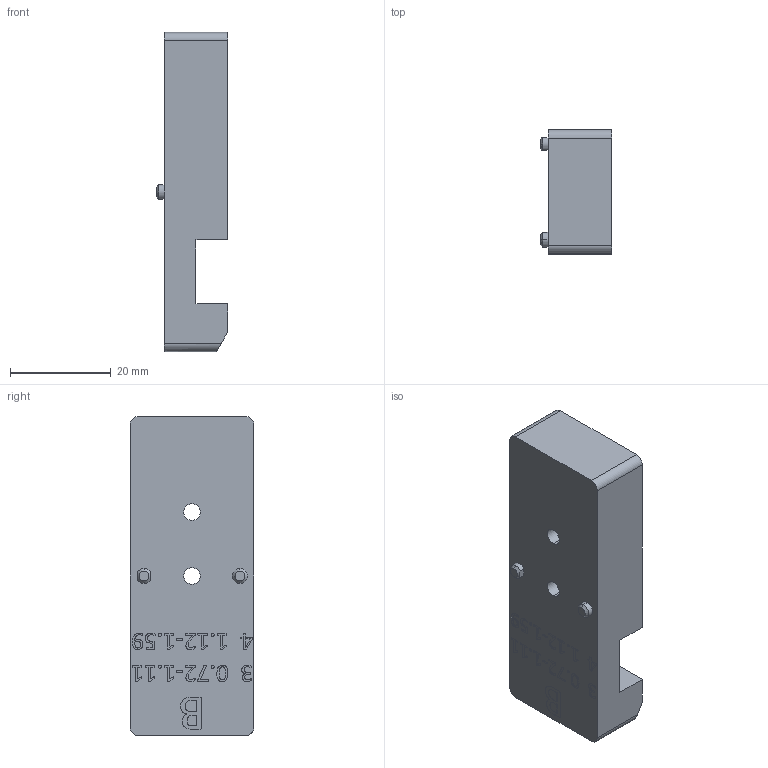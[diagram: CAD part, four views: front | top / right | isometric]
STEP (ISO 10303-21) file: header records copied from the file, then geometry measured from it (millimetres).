
FILE_DESCRIPTION (( 'STEP AP203' ), '1' );
FILE_NAME ('5011205_REV-A - SHAFT FINGER B.STEP', '2024-11-07T18:41:25', ( '' ), ( '' ), 'SwSTEP 2.0', 'SolidWorks 2019', '' );
FILE_SCHEMA (( 'CONFIG_CONTROL_DESIGN' ));
Length unit declared in the file: inch
Products named in the file (1): 5011205_REV-A - SHAFT FINGER B
Bounding box: 14.29 x 24.61 x 63.5 mm (x, y, z)
Volume: 17519.9 mm3; surface area: 5690.7 mm2
Topology: 1 solids, 1 shells, 311 faces, 840 edges, 559 vertices
Faces by surface type: bspline 168, plane 126, cylinder 13, cone 4
Entity records: 16920 total; most frequent: CARTESIAN_POINT 10151, ORIENTED_EDGE 1680, EDGE_CURVE 840, DIRECTION 817, VERTEX_POINT 559, LINE 471, VECTOR 471, EDGE_LOOP 343
